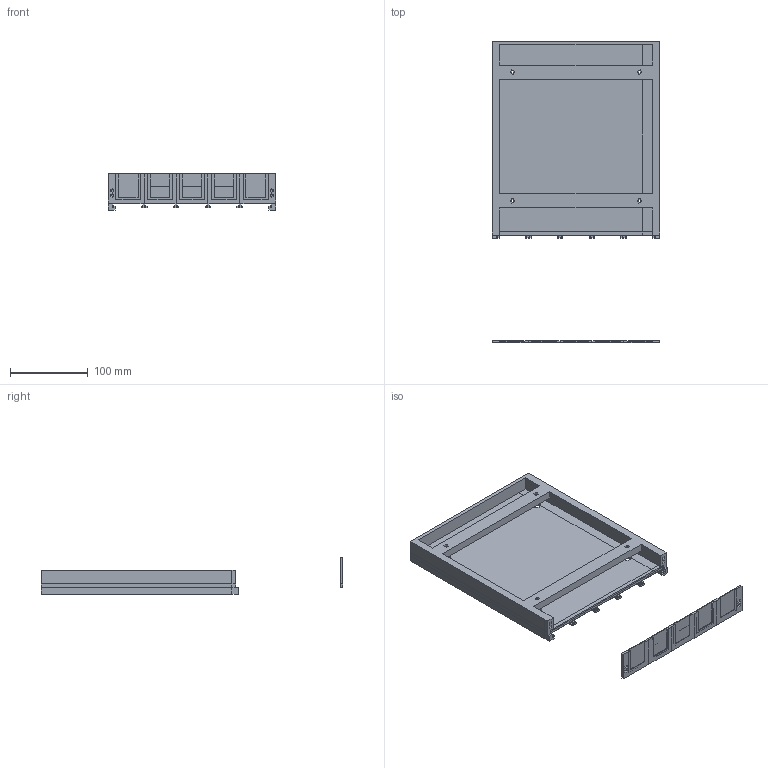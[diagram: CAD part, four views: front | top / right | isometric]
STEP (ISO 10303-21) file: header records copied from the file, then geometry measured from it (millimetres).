
FILE_DESCRIPTION(/* description */ (''),/* implementation_level */ '2;1');
FILE_NAME(/* name */ 'nespresso-kapselhalter-3d-druck',/* time_stamp */ '2026-08-10T10:00:30+02:00',/* author */ (''),/* organization */ (''),/* preprocessor_version */ 'ST-DEVELOPER v19.2',/* originating_system */ 'Rhino 8.33',/* authorisation */ '');
FILE_SCHEMA (('CONFIG_CONTROL_DESIGN'));
Length unit declared in the file: millimetre
Products named in the file (1): Document
Bounding box: 215.2 x 387.5 x 46.6 mm (x, y, z)
Volume: 664748.6 mm3; surface area: 353614.4 mm2
Topology: 12 solids, 12 shells, 539 faces, 1374 edges, 883 vertices
Faces by surface type: plane 426, cylinder 64, bspline 49
Entity records: 16113 total; most frequent: CARTESIAN_POINT 5873, ORIENTED_EDGE 2706, EDGE_CURVE 1353, B_SPLINE_CURVE_WITH_KNOTS 1138, VERTEX_POINT 868, DIRECTION 817, AXIS2_PLACEMENT_3D 644, EDGE_LOOP 605
